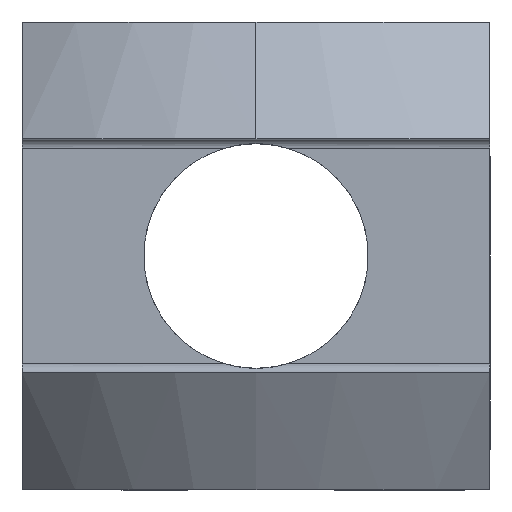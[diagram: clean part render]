
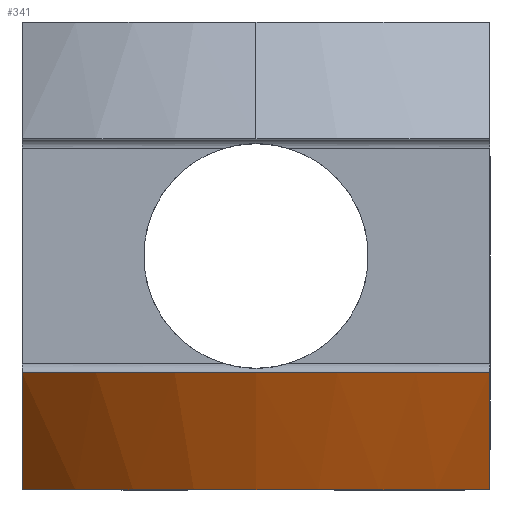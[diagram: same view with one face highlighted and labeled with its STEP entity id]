
A CAD part, left-side view. The second image highlights one B-rep face of the part: STEP entity #341.
In plain terms, the highlighted conical face has half-angle 30 degrees and reference radius 50 mm.
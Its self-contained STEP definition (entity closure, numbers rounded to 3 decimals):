
#119 = ORIENTED_EDGE ( 'NONE', *, *, #173, .F. ) ;
#126 = ORIENTED_EDGE ( 'NONE', *, *, #331, .F. ) ;
#128 = ORIENTED_EDGE ( 'NONE', *, *, #184, .T. ) ;
#173 = EDGE_CURVE ( 'NONE', #254, #175, #737, .T. ) ;
#175 = VERTEX_POINT ( 'NONE', #736 ) ;
#184 = EDGE_CURVE ( 'NONE', #189, #175, #759, .T. ) ;
#189 = VERTEX_POINT ( 'NONE', #814 ) ;
#251 = VERTEX_POINT ( 'NONE', #898 ) ;
#253 = EDGE_CURVE ( 'NONE', #251, #254, #896, .T. ) ;
#254 = VERTEX_POINT ( 'NONE', #897 ) ;
#331 = EDGE_CURVE ( 'NONE', #189, #251, #1083, .T. ) ;
#341 = ADVANCED_FACE ( 'NONE', ( #1077 ), #1072, .T. ) ;
#342 = EDGE_LOOP ( 'NONE', ( #377, #126, #128, #119 ) ) ;
#377 = ORIENTED_EDGE ( 'NONE', *, *, #253, .F. ) ;
#732 = CARTESIAN_POINT ( 'NONE',  ( -116.719, -25., -25. ) ) ;
#733 = CARTESIAN_POINT ( 'NONE',  ( -119.65, -25., -20.88 ) ) ;
#734 = CARTESIAN_POINT ( 'NONE',  ( -122.498, -25., -16.705 ) ) ;
#735 = CARTESIAN_POINT ( 'NONE',  ( -125.301, -25., -12.5 ) ) ;
#736 = CARTESIAN_POINT ( 'NONE',  ( -116.719, -25., -25. ) ) ;
#737 = B_SPLINE_CURVE_WITH_KNOTS ( 'NONE', 3,
 ( #735, #734, #733, #732 ),
 .UNSPECIFIED., .F., .F.,
 ( 4, 4 ),
 ( 0.037, 0.052 ),
 .UNSPECIFIED. ) ;
#755 = DIRECTION ( 'NONE',  ( 1., 0., 0. ) ) ;
#756 = DIRECTION ( 'NONE',  ( 0., 0., 1. ) ) ;
#757 = CARTESIAN_POINT ( 'NONE',  ( -82., 0., -25. ) ) ;
#758 = AXIS2_PLACEMENT_3D ( 'NONE', #757, #756, #755 ) ;
#759 = CIRCLE ( 'NONE', #758, 42.783 ) ;
#814 = CARTESIAN_POINT ( 'NONE',  ( -116.719, 25., -25. ) ) ;
#892 = DIRECTION ( 'NONE',  ( 1., 0., 0. ) ) ;
#893 = DIRECTION ( 'NONE',  ( 0., 0., 1. ) ) ;
#894 = CARTESIAN_POINT ( 'NONE',  ( -82., 0., -12.5 ) ) ;
#895 = AXIS2_PLACEMENT_3D ( 'NONE', #894, #893, #892 ) ;
#896 = CIRCLE ( 'NONE', #895, 50. ) ;
#897 = CARTESIAN_POINT ( 'NONE',  ( -125.301, -25., -12.5 ) ) ;
#898 = CARTESIAN_POINT ( 'NONE',  ( -125.301, 25., -12.5 ) ) ;
#1067 = DIRECTION ( 'NONE',  ( 1., 0., 0. ) ) ;
#1068 = DIRECTION ( 'NONE',  ( 0., 0., 1. ) ) ;
#1069 = AXIS2_PLACEMENT_3D ( 'NONE', #1071, #1068, #1067 ) ;
#1071 = CARTESIAN_POINT ( 'NONE',  ( -82., 0., -12.5 ) ) ;
#1072 = CONICAL_SURFACE ( 'NONE', #1069, 50., 0.524 ) ;
#1077 = FACE_OUTER_BOUND ( 'NONE', #342, .T. ) ;
#1078 = CARTESIAN_POINT ( 'NONE',  ( -125.301, 25., -12.5 ) ) ;
#1079 = CARTESIAN_POINT ( 'NONE',  ( -122.498, 25., -16.705 ) ) ;
#1080 = CARTESIAN_POINT ( 'NONE',  ( -119.65, 25., -20.88 ) ) ;
#1081 = CARTESIAN_POINT ( 'NONE',  ( -116.719, 25., -25. ) ) ;
#1083 = B_SPLINE_CURVE_WITH_KNOTS ( 'NONE', 3,
 ( #1081, #1080, #1079, #1078 ),
 .UNSPECIFIED., .F., .F.,
 ( 4, 4 ),
 ( 0.089, 0.105 ),
 .UNSPECIFIED. ) ;
